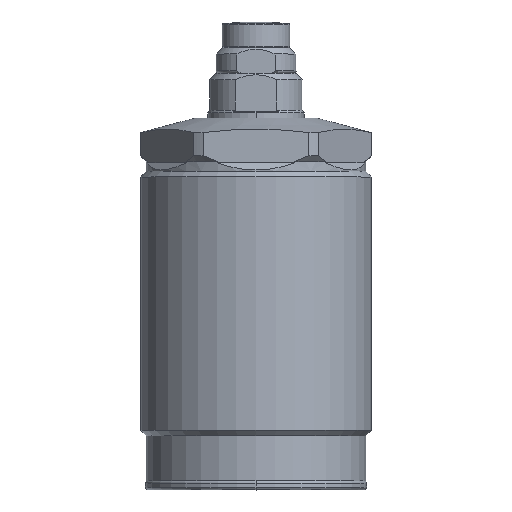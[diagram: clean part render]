
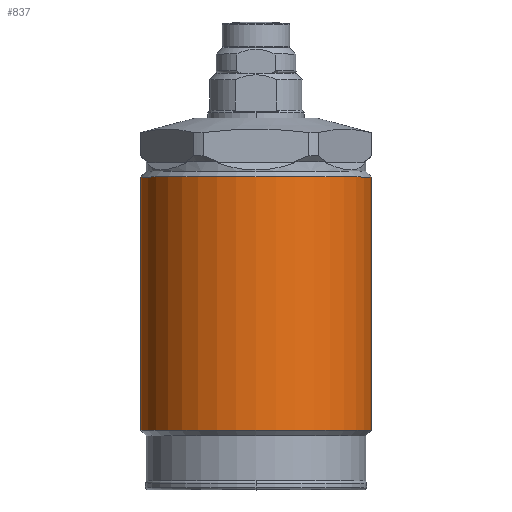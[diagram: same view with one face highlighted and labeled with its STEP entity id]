
A CAD part, top view. The second image highlights one B-rep face of the part: STEP entity #837.
In plain terms, the highlighted cylindrical face has radius 18 mm (diameter 36 mm), a partial arc.
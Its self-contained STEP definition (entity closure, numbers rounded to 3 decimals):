
#470=CYLINDRICAL_SURFACE('',#3439,18.);
#552=LINE('',#5141,#684);
#553=LINE('',#5142,#685);
#684=VECTOR('',#4101,1.);
#685=VECTOR('',#4102,1.);
#837=ADVANCED_FACE('',(#1075),#470,.T.);
#1075=FACE_OUTER_BOUND('',#1257,.T.);
#1257=EDGE_LOOP('',(#1667,#1668,#1669,#1670));
#1667=ORIENTED_EDGE('',*,*,#2722,.T.);
#1668=ORIENTED_EDGE('',*,*,#2723,.T.);
#1669=ORIENTED_EDGE('',*,*,#2720,.F.);
#1670=ORIENTED_EDGE('',*,*,#2724,.F.);
#2399=VERTEX_POINT('',#5133);
#2400=VERTEX_POINT('',#5135);
#2401=VERTEX_POINT('',#5139);
#2402=VERTEX_POINT('',#5140);
#2720=EDGE_CURVE('',#2399,#2400,#3119,.T.);
#2722=EDGE_CURVE('',#2401,#2402,#3120,.T.);
#2723=EDGE_CURVE('',#2402,#2400,#552,.T.);
#2724=EDGE_CURVE('',#2401,#2399,#553,.T.);
#3119=CIRCLE('',#3436,18.);
#3120=CIRCLE('',#3438,18.);
#3436=AXIS2_PLACEMENT_3D('',#5134,#4094,#4095);
#3438=AXIS2_PLACEMENT_3D('',#5138,#4099,#4100);
#3439=AXIS2_PLACEMENT_3D('',#5143,#4103,#4104);
#4094=DIRECTION('',(0.,-1.,0.));
#4095=DIRECTION('',(1.,0.,0.));
#4099=DIRECTION('',(0.,-1.,0.));
#4100=DIRECTION('',(1.,0.,0.));
#4101=DIRECTION('',(0.,-1.,0.));
#4102=DIRECTION('',(0.,-1.,0.));
#4103=DIRECTION('',(0.,-1.,0.));
#4104=DIRECTION('',(-1.,0.,0.));
#5133=CARTESIAN_POINT('',(18.,-48.7,0.));
#5134=CARTESIAN_POINT('',(0.,-48.7,0.));
#5135=CARTESIAN_POINT('',(-18.,-48.7,0.));
#5138=CARTESIAN_POINT('',(0.,-9.2,0.));
#5139=CARTESIAN_POINT('',(18.,-9.2,0.));
#5140=CARTESIAN_POINT('',(-18.,-9.2,0.));
#5141=CARTESIAN_POINT('',(-18.,1.,0.));
#5142=CARTESIAN_POINT('',(18.,1.,0.));
#5143=CARTESIAN_POINT('',(0.,1.,0.));
